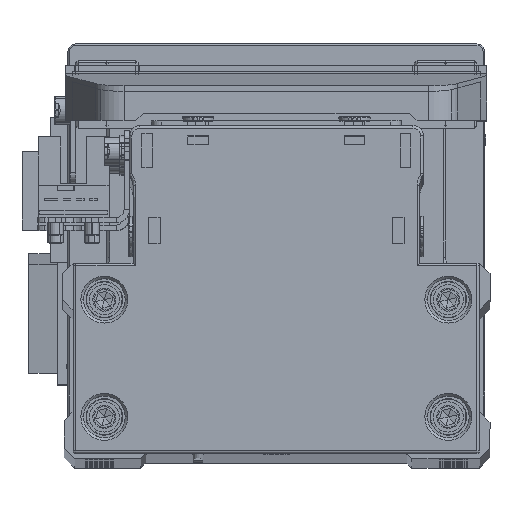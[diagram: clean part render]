
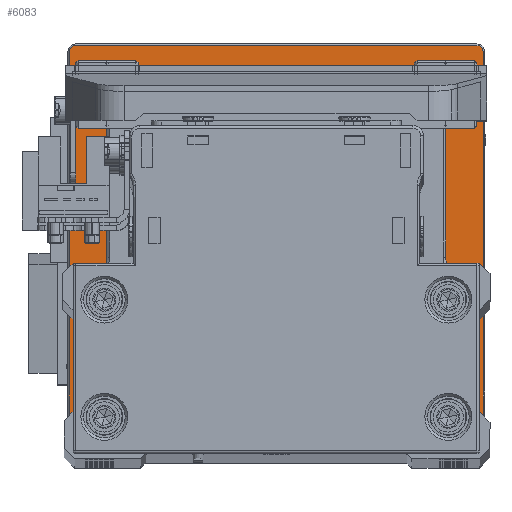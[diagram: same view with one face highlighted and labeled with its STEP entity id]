
A CAD part, top view. The second image highlights one B-rep face of the part: STEP entity #6083.
In plain terms, the highlighted planar face has unit normal (0, 0, 1) as drawn and (0, 1, 0) by its records, which use the part's own axes.
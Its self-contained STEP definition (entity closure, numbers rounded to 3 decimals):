
#79 = CARTESIAN_POINT ( 'NONE',  ( 39.7, 12., 0. ) ) ;
#670 = DIRECTION ( 'NONE',  ( 0., 0., 1. ) ) ;
#733 = AXIS2_PLACEMENT_3D ( 'NONE', #15275, #27659, #40030 ) ;
#1212 = VECTOR ( 'NONE', #670, 1000. ) ;
#1373 = LINE ( 'NONE', #13795, #17870 ) ;
#1408 = CARTESIAN_POINT ( 'NONE',  ( -38.5, 12., -38.5 ) ) ;
#1619 = CIRCLE ( 'NONE', #24378, 20.5 ) ;
#2865 = PLANE ( 'NONE',  #733 ) ;
#3648 = VERTEX_POINT ( 'NONE', #19634 ) ;
#4214 = VECTOR ( 'NONE', #12504, 1000. ) ;
#4770 = EDGE_CURVE ( 'NONE', #3648, #16268, #12214, .T. ) ;
#5553 = DIRECTION ( 'NONE',  ( 0., 1., 0. ) ) ;
#5697 = EDGE_CURVE ( 'NONE', #36950, #35656, #16139, .T. ) ;
#5708 = CARTESIAN_POINT ( 'NONE',  ( 0., 12., 0. ) ) ;
#5764 = VERTEX_POINT ( 'NONE', #38028 ) ;
#5816 = ORIENTED_EDGE ( 'NONE', *, *, #40021, .T. ) ;
#6083 = ADVANCED_FACE ( 'NONE', ( #18310, #30710 ), #2865, .F. ) ;
#6214 = ORIENTED_EDGE ( 'NONE', *, *, #30931, .T. ) ;
#7154 = VERTEX_POINT ( 'NONE', #26724 ) ;
#7169 = VERTEX_POINT ( 'NONE', #8230 ) ;
#7371 = DIRECTION ( 'NONE',  ( 0., 1., 0. ) ) ;
#7504 = EDGE_CURVE ( 'NONE', #7684, #5764, #28999, .T. ) ;
#7684 = VERTEX_POINT ( 'NONE', #9146 ) ;
#8037 = CARTESIAN_POINT ( 'NONE',  ( 0., 12., 39.7 ) ) ;
#8201 = EDGE_LOOP ( 'NONE', ( #10047, #21955 ) ) ;
#8230 = CARTESIAN_POINT ( 'NONE',  ( -38.5, 12., 39.7 ) ) ;
#9146 = CARTESIAN_POINT ( 'NONE',  ( 0., 12., 20.5 ) ) ;
#9384 = ORIENTED_EDGE ( 'NONE', *, *, #29751, .T. ) ;
#9639 = CARTESIAN_POINT ( 'NONE',  ( -38.5, 12., -39.7 ) ) ;
#10047 = ORIENTED_EDGE ( 'NONE', *, *, #7504, .F. ) ;
#10370 = EDGE_CURVE ( 'NONE', #35656, #7169, #30779, .T. ) ;
#11729 = CARTESIAN_POINT ( 'NONE',  ( 38.5, 12., 38.5 ) ) ;
#12185 = CARTESIAN_POINT ( 'NONE',  ( 38.5, 12., -38.5 ) ) ;
#12214 = CIRCLE ( 'NONE', #34890, 1.2 ) ;
#12504 = DIRECTION ( 'NONE',  ( 0., 0., -1. ) ) ;
#13277 = AXIS2_PLACEMENT_3D ( 'NONE', #33378, #5553, #17945 ) ;
#13541 = EDGE_CURVE ( 'NONE', #23998, #36950, #34248, .T. ) ;
#13795 = CARTESIAN_POINT ( 'NONE',  ( 0., 12., -39.7 ) ) ;
#13833 = DIRECTION ( 'NONE',  ( 0., 1., 0. ) ) ;
#15180 = CARTESIAN_POINT ( 'NONE',  ( 39.7, 12., 38.5 ) ) ;
#15275 = CARTESIAN_POINT ( 'NONE',  ( 0., 12., 0. ) ) ;
#16139 = LINE ( 'NONE', #28526, #1212 ) ;
#16268 = VERTEX_POINT ( 'NONE', #33731 ) ;
#16661 = AXIS2_PLACEMENT_3D ( 'NONE', #35192, #7371, #19763 ) ;
#16731 = AXIS2_PLACEMENT_3D ( 'NONE', #1408, #13833, #26221 ) ;
#17870 = VECTOR ( 'NONE', #26182, 1000. ) ;
#17945 = DIRECTION ( 'NONE',  ( 0., 0., -1. ) ) ;
#18096 = DIRECTION ( 'NONE',  ( 0., 1., 0. ) ) ;
#18263 = EDGE_LOOP ( 'NONE', ( #29845, #6214, #26304, #25466, #23435, #5816, #21729, #9384 ) ) ;
#18310 = FACE_OUTER_BOUND ( 'NONE', #18263, .T. ) ;
#19367 = EDGE_CURVE ( 'NONE', #7154, #36029, #28077, .T. ) ;
#19634 = CARTESIAN_POINT ( 'NONE',  ( 39.7, 12., -38.5 ) ) ;
#19763 = DIRECTION ( 'NONE',  ( 0., 0., 1. ) ) ;
#20433 = DIRECTION ( 'NONE',  ( 1., 0., 0. ) ) ;
#21729 = ORIENTED_EDGE ( 'NONE', *, *, #19367, .T. ) ;
#21955 = ORIENTED_EDGE ( 'NONE', *, *, #30616, .F. ) ;
#23435 = ORIENTED_EDGE ( 'NONE', *, *, #10370, .T. ) ;
#23998 = VERTEX_POINT ( 'NONE', #9639 ) ;
#24118 = DIRECTION ( 'NONE',  ( 0., 1., 0. ) ) ;
#24378 = AXIS2_PLACEMENT_3D ( 'NONE', #5708, #18096, #30496 ) ;
#24595 = DIRECTION ( 'NONE',  ( 0., 1., 0. ) ) ;
#25466 = ORIENTED_EDGE ( 'NONE', *, *, #5697, .T. ) ;
#26182 = DIRECTION ( 'NONE',  ( -1., 0., 0. ) ) ;
#26221 = DIRECTION ( 'NONE',  ( 0., 0., -1. ) ) ;
#26304 = ORIENTED_EDGE ( 'NONE', *, *, #13541, .T. ) ;
#26724 = CARTESIAN_POINT ( 'NONE',  ( 38.5, 12., 39.7 ) ) ;
#27659 = DIRECTION ( 'NONE',  ( 0., -1., 0. ) ) ;
#27944 = LINE ( 'NONE', #79, #4214 ) ;
#28077 = CIRCLE ( 'NONE', #33247, 1.2 ) ;
#28526 = CARTESIAN_POINT ( 'NONE',  ( -39.7, 12., 0. ) ) ;
#28999 = CIRCLE ( 'NONE', #16661, 20.5 ) ;
#29751 = EDGE_CURVE ( 'NONE', #36029, #3648, #27944, .T. ) ;
#29845 = ORIENTED_EDGE ( 'NONE', *, *, #4770, .T. ) ;
#30496 = DIRECTION ( 'NONE',  ( 0., 0., 1. ) ) ;
#30616 = EDGE_CURVE ( 'NONE', #5764, #7684, #1619, .T. ) ;
#30710 = FACE_BOUND ( 'NONE', #8201, .T. ) ;
#30779 = CIRCLE ( 'NONE', #13277, 1.2 ) ;
#30931 = EDGE_CURVE ( 'NONE', #16268, #23998, #1373, .T. ) ;
#31868 = CARTESIAN_POINT ( 'NONE',  ( -39.7, 12., -38.5 ) ) ;
#32122 = VECTOR ( 'NONE', #20433, 1000. ) ;
#33247 = AXIS2_PLACEMENT_3D ( 'NONE', #11729, #24118, #36483 ) ;
#33378 = CARTESIAN_POINT ( 'NONE',  ( -38.5, 12., 38.5 ) ) ;
#33731 = CARTESIAN_POINT ( 'NONE',  ( 38.5, 12., -39.7 ) ) ;
#34248 = CIRCLE ( 'NONE', #16731, 1.2 ) ;
#34498 = CARTESIAN_POINT ( 'NONE',  ( -39.7, 12., 38.5 ) ) ;
#34890 = AXIS2_PLACEMENT_3D ( 'NONE', #12185, #24595, #36947 ) ;
#35192 = CARTESIAN_POINT ( 'NONE',  ( 0., 12., 0. ) ) ;
#35656 = VERTEX_POINT ( 'NONE', #34498 ) ;
#35859 = LINE ( 'NONE', #8037, #32122 ) ;
#36029 = VERTEX_POINT ( 'NONE', #15180 ) ;
#36483 = DIRECTION ( 'NONE',  ( 0., 0., -1. ) ) ;
#36947 = DIRECTION ( 'NONE',  ( 0., 0., -1. ) ) ;
#36950 = VERTEX_POINT ( 'NONE', #31868 ) ;
#38028 = CARTESIAN_POINT ( 'NONE',  ( 0., 12., -20.5 ) ) ;
#40021 = EDGE_CURVE ( 'NONE', #7169, #7154, #35859, .T. ) ;
#40030 = DIRECTION ( 'NONE',  ( 0., 0., -1. ) ) ;
